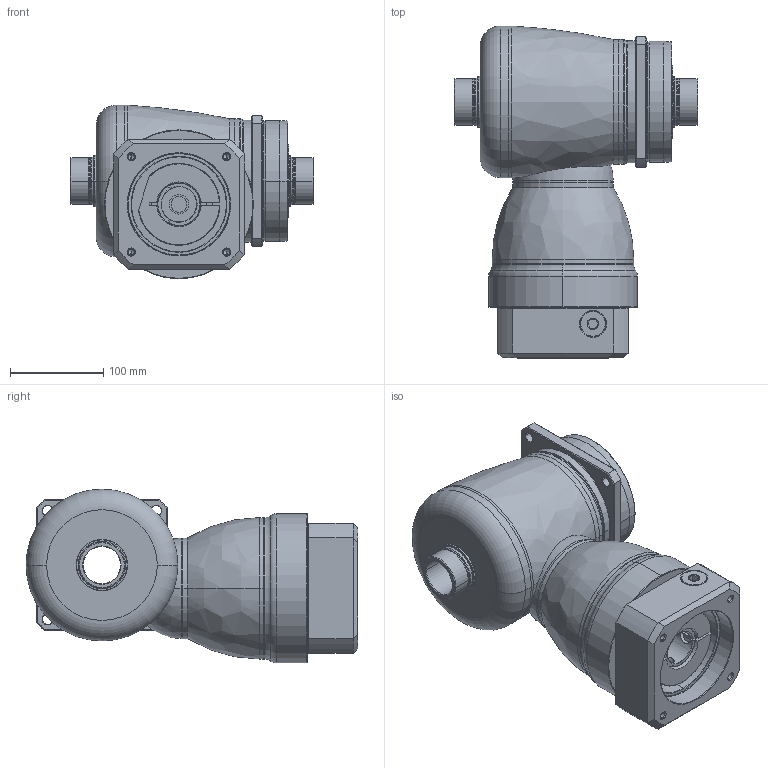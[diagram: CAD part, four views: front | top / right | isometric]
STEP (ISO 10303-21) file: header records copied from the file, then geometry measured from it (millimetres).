
FILE_DESCRIPTION((''),'2;1');
FILE_NAME('KF140_S4_1ST_38-P0409900101_ASM','2016-07-21T',('d01943'),(''),'PRO/ENGINEER BY PARAMETRIC TECHNOLOGY CORPORATION, 2008410','PRO/ENGINEER BY PARAMETRIC TECHNOLOGY CORPORATION, 2008410','');
FILE_SCHEMA(('CONFIG_CONTROL_DESIGN'));
Length unit declared in the file: millimetre
Products named in the file (11): P1008500002; P1804500001; P0914500001; P1315500001; P1007500001; P1318500401; P0409900101; P0503900012; P0912504201; 21711422019; KF140_S4_1ST_38-P0409900101_ASM
Assembly tree (10 placements, depth 2):
  KF140_S4_1ST_38-P0409900101_ASM
    P1008500002
    P1804500001
    P0914500001
    P1315500001
    P1007500001
    P1318500401
    P0409900101
    P0503900012
    P0912504201
    21711422019
Bounding box: 262 x 356.5 x 186.5 mm (x, y, z)
Volume: 5287811 mm3; surface area: 630978.8 mm2
Topology: 11 solids, 11 shells, 487 faces, 1076 edges, 634 vertices
Faces by surface type: cylinder 164, cone 134, plane 100, torus 66, bspline 21, sphere 2
Entity records: 18368 total; most frequent: CARTESIAN_POINT 7326, DIRECTION 2463, ORIENTED_EDGE 2116, EDGE_CURVE 1058, AXIS2_PLACEMENT_3D 1045, VERTEX_POINT 634, EDGE_LOOP 558, CIRCLE 558
